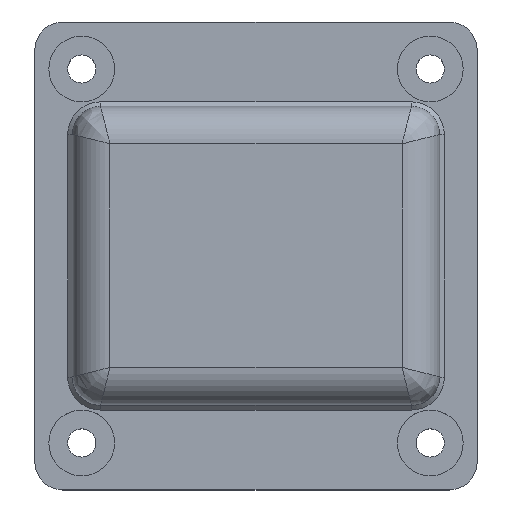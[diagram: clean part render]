
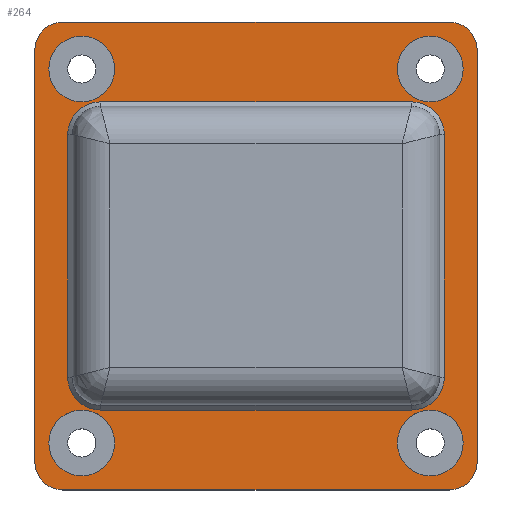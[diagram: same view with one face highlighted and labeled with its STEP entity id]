
A CAD part, top view. The second image highlights one B-rep face of the part: STEP entity #264.
In plain terms, the highlighted planar face has unit normal (0, 0, 1).
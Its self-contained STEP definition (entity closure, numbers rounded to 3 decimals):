
#166=LINE('',#1130,#214);
#167=LINE('',#1135,#215);
#168=LINE('',#1139,#216);
#169=LINE('',#1143,#217);
#170=LINE('',#1150,#218);
#171=LINE('',#1155,#219);
#172=LINE('',#1159,#220);
#173=LINE('',#1163,#221);
#214=VECTOR('',#908,1.);
#215=VECTOR('',#911,1.);
#216=VECTOR('',#914,1.);
#217=VECTOR('',#917,1.);
#218=VECTOR('',#924,1.);
#219=VECTOR('',#927,1.);
#220=VECTOR('',#930,1.);
#221=VECTOR('',#933,1.);
#264=ADVANCED_FACE('',(#332,#333,#334,#335,#336,#337),#311,.F.);
#311=PLANE('',#823);
#332=FACE_BOUND('',#367,.T.);
#333=FACE_BOUND('',#368,.T.);
#334=FACE_BOUND('',#369,.T.);
#335=FACE_BOUND('',#370,.T.);
#336=FACE_BOUND('',#371,.T.);
#337=FACE_BOUND('',#372,.T.);
#367=EDGE_LOOP('',(#435,#436,#437,#438,#439,#440,#441,#442));
#368=EDGE_LOOP('',(#443));
#369=EDGE_LOOP('',(#444));
#370=EDGE_LOOP('',(#445,#446,#447,#448,#449,#450,#451,#452));
#371=EDGE_LOOP('',(#453));
#372=EDGE_LOOP('',(#454));
#435=ORIENTED_EDGE('',*,*,#679,.T.);
#436=ORIENTED_EDGE('',*,*,#680,.T.);
#437=ORIENTED_EDGE('',*,*,#681,.T.);
#438=ORIENTED_EDGE('',*,*,#682,.T.);
#439=ORIENTED_EDGE('',*,*,#683,.T.);
#440=ORIENTED_EDGE('',*,*,#684,.T.);
#441=ORIENTED_EDGE('',*,*,#685,.T.);
#442=ORIENTED_EDGE('',*,*,#686,.T.);
#443=ORIENTED_EDGE('',*,*,#687,.F.);
#444=ORIENTED_EDGE('',*,*,#688,.T.);
#445=ORIENTED_EDGE('',*,*,#689,.F.);
#446=ORIENTED_EDGE('',*,*,#690,.T.);
#447=ORIENTED_EDGE('',*,*,#691,.F.);
#448=ORIENTED_EDGE('',*,*,#692,.T.);
#449=ORIENTED_EDGE('',*,*,#693,.T.);
#450=ORIENTED_EDGE('',*,*,#694,.T.);
#451=ORIENTED_EDGE('',*,*,#695,.T.);
#452=ORIENTED_EDGE('',*,*,#696,.T.);
#453=ORIENTED_EDGE('',*,*,#697,.T.);
#454=ORIENTED_EDGE('',*,*,#698,.F.);
#619=VERTEX_POINT('',#1131);
#620=VERTEX_POINT('',#1132);
#621=VERTEX_POINT('',#1134);
#622=VERTEX_POINT('',#1136);
#623=VERTEX_POINT('',#1138);
#624=VERTEX_POINT('',#1140);
#625=VERTEX_POINT('',#1142);
#626=VERTEX_POINT('',#1144);
#627=VERTEX_POINT('',#1147);
#628=VERTEX_POINT('',#1149);
#629=VERTEX_POINT('',#1151);
#630=VERTEX_POINT('',#1152);
#631=VERTEX_POINT('',#1154);
#632=VERTEX_POINT('',#1156);
#633=VERTEX_POINT('',#1158);
#634=VERTEX_POINT('',#1160);
#635=VERTEX_POINT('',#1162);
#636=VERTEX_POINT('',#1164);
#637=VERTEX_POINT('',#1167);
#638=VERTEX_POINT('',#1169);
#679=EDGE_CURVE('',#619,#620,#166,.T.);
#680=EDGE_CURVE('',#620,#621,#771,.T.);
#681=EDGE_CURVE('',#621,#622,#167,.T.);
#682=EDGE_CURVE('',#622,#623,#772,.T.);
#683=EDGE_CURVE('',#623,#624,#168,.T.);
#684=EDGE_CURVE('',#624,#625,#773,.T.);
#685=EDGE_CURVE('',#625,#626,#169,.T.);
#686=EDGE_CURVE('',#626,#619,#774,.T.);
#687=EDGE_CURVE('',#627,#627,#775,.T.);
#688=EDGE_CURVE('',#628,#628,#776,.T.);
#689=EDGE_CURVE('',#629,#630,#170,.T.);
#690=EDGE_CURVE('',#629,#631,#777,.T.);
#691=EDGE_CURVE('',#632,#631,#171,.T.);
#692=EDGE_CURVE('',#632,#633,#778,.T.);
#693=EDGE_CURVE('',#633,#634,#172,.T.);
#694=EDGE_CURVE('',#634,#635,#779,.T.);
#695=EDGE_CURVE('',#635,#636,#173,.T.);
#696=EDGE_CURVE('',#636,#630,#780,.T.);
#697=EDGE_CURVE('',#637,#637,#781,.T.);
#698=EDGE_CURVE('',#638,#638,#782,.T.);
#771=CIRCLE('',#811,3.5);
#772=CIRCLE('',#812,3.5);
#773=CIRCLE('',#813,3.5);
#774=CIRCLE('',#814,3.5);
#775=CIRCLE('',#815,3.5);
#776=CIRCLE('',#816,3.5);
#777=CIRCLE('',#817,3.);
#778=CIRCLE('',#818,3.);
#779=CIRCLE('',#819,3.);
#780=CIRCLE('',#820,3.);
#781=CIRCLE('',#821,3.5);
#782=CIRCLE('',#822,3.5);
#811=AXIS2_PLACEMENT_3D('',#1133,#909,#910);
#812=AXIS2_PLACEMENT_3D('',#1137,#912,#913);
#813=AXIS2_PLACEMENT_3D('',#1141,#915,#916);
#814=AXIS2_PLACEMENT_3D('',#1145,#918,#919);
#815=AXIS2_PLACEMENT_3D('',#1146,#920,#921);
#816=AXIS2_PLACEMENT_3D('',#1148,#922,#923);
#817=AXIS2_PLACEMENT_3D('',#1153,#925,#926);
#818=AXIS2_PLACEMENT_3D('',#1157,#928,#929);
#819=AXIS2_PLACEMENT_3D('',#1161,#931,#932);
#820=AXIS2_PLACEMENT_3D('',#1165,#934,#935);
#821=AXIS2_PLACEMENT_3D('',#1166,#936,#937);
#822=AXIS2_PLACEMENT_3D('',#1168,#938,#939);
#823=AXIS2_PLACEMENT_3D('',#1170,#940,#941);
#908=DIRECTION('',(0.,-1.,0.));
#909=DIRECTION('',(0.,0.,-1.));
#910=DIRECTION('',(-1.,0.,0.));
#911=DIRECTION('',(-1.,0.,0.));
#912=DIRECTION('',(0.,0.,-1.));
#913=DIRECTION('',(-1.,0.,0.));
#914=DIRECTION('',(0.,1.,0.));
#915=DIRECTION('',(0.,0.,-1.));
#916=DIRECTION('',(-1.,0.,0.));
#917=DIRECTION('',(1.,0.,0.));
#918=DIRECTION('',(0.,0.,-1.));
#919=DIRECTION('',(-1.,0.,0.));
#920=DIRECTION('',(0.,0.,1.));
#921=DIRECTION('',(0.,-1.,0.));
#922=DIRECTION('',(0.,0.,-1.));
#923=DIRECTION('',(0.,1.,0.));
#924=DIRECTION('',(0.,1.,0.));
#925=DIRECTION('',(0.,0.,1.));
#926=DIRECTION('',(-1.,0.,0.));
#927=DIRECTION('',(-1.,0.,0.));
#928=DIRECTION('',(0.,0.,1.));
#929=DIRECTION('',(-1.,0.,0.));
#930=DIRECTION('',(0.,1.,0.));
#931=DIRECTION('',(0.,0.,1.));
#932=DIRECTION('',(-1.,0.,0.));
#933=DIRECTION('',(-1.,0.,0.));
#934=DIRECTION('',(0.,0.,1.));
#935=DIRECTION('',(-1.,0.,0.));
#936=DIRECTION('',(0.,0.,-1.));
#937=DIRECTION('',(0.,-1.,0.));
#938=DIRECTION('',(0.,0.,1.));
#939=DIRECTION('',(0.,1.,0.));
#940=DIRECTION('',(0.,0.,-1.));
#941=DIRECTION('',(-1.,0.,0.));
#1130=CARTESIAN_POINT('',(309.542,117.1,97.5));
#1131=CARTESIAN_POINT('',(309.542,142.9,97.5));
#1132=CARTESIAN_POINT('',(309.542,117.1,97.5));
#1133=CARTESIAN_POINT('',(306.042,117.1,97.5));
#1134=CARTESIAN_POINT('',(306.042,113.6,97.5));
#1135=CARTESIAN_POINT('',(272.958,113.6,97.5));
#1136=CARTESIAN_POINT('',(272.958,113.6,97.5));
#1137=CARTESIAN_POINT('',(272.958,117.1,97.5));
#1138=CARTESIAN_POINT('',(269.458,117.1,97.5));
#1139=CARTESIAN_POINT('',(269.458,142.9,97.5));
#1140=CARTESIAN_POINT('',(269.458,142.9,97.5));
#1141=CARTESIAN_POINT('',(272.958,142.9,97.5));
#1142=CARTESIAN_POINT('',(272.958,146.4,97.5));
#1143=CARTESIAN_POINT('',(306.042,146.4,97.5));
#1144=CARTESIAN_POINT('',(306.042,146.4,97.5));
#1145=CARTESIAN_POINT('',(306.042,142.9,97.5));
#1146=CARTESIAN_POINT('',(308.042,149.9,97.5));
#1147=CARTESIAN_POINT('',(308.042,146.4,97.5));
#1148=CARTESIAN_POINT('',(308.042,110.1,97.5));
#1149=CARTESIAN_POINT('',(308.042,113.6,97.5));
#1150=CARTESIAN_POINT('',(265.958,135.1,97.5));
#1151=CARTESIAN_POINT('',(265.958,108.1,97.5));
#1152=CARTESIAN_POINT('',(265.958,151.9,97.5));
#1153=CARTESIAN_POINT('',(268.958,108.1,97.5));
#1154=CARTESIAN_POINT('',(268.958,105.1,97.5));
#1155=CARTESIAN_POINT('',(313.042,105.1,97.5));
#1156=CARTESIAN_POINT('',(310.042,105.1,97.5));
#1157=CARTESIAN_POINT('',(310.042,108.1,97.5));
#1158=CARTESIAN_POINT('',(313.042,108.1,97.5));
#1159=CARTESIAN_POINT('',(313.042,135.1,97.5));
#1160=CARTESIAN_POINT('',(313.042,151.9,97.5));
#1161=CARTESIAN_POINT('',(310.042,151.9,97.5));
#1162=CARTESIAN_POINT('',(310.042,154.9,97.5));
#1163=CARTESIAN_POINT('',(313.042,154.9,97.5));
#1164=CARTESIAN_POINT('',(268.958,154.9,97.5));
#1165=CARTESIAN_POINT('',(268.958,151.9,97.5));
#1166=CARTESIAN_POINT('',(270.958,149.9,97.5));
#1167=CARTESIAN_POINT('',(270.958,146.4,97.5));
#1168=CARTESIAN_POINT('',(270.958,110.1,97.5));
#1169=CARTESIAN_POINT('',(270.958,113.6,97.5));
#1170=CARTESIAN_POINT('',(313.042,135.1,97.5));
